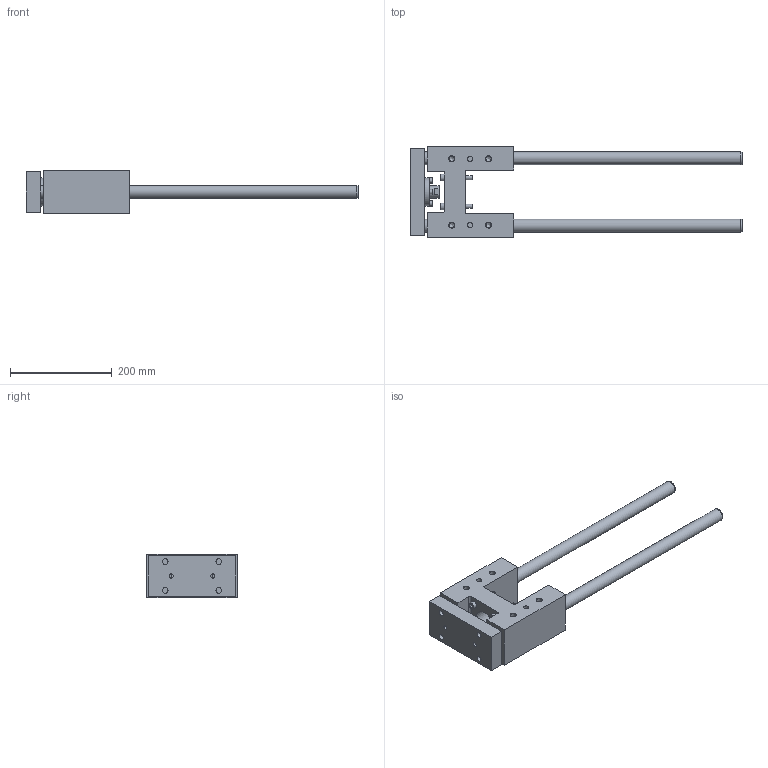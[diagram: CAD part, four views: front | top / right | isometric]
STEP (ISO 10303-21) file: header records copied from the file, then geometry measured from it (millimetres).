
FILE_DESCRIPTION( ( 'STEP AP214' ), '1' );
FILE_NAME( 'U:/Etudes/Top Solid/BIBLIO 3D AVM/TOP/PNEUMATIQUE/GUIDAGES/Type 32 (en H)/R_Renforcée/327R7_30.step', '2005-05-27T09:07:06', ( ' ' ), ( ' ' ), 'XStep 1.0', ' ', ' ' );
FILE_SCHEMA( ( 'automotive_design' ) );
Length unit declared in the file: metre
Products named in the file (2): 1; 2
Bounding box: 651 x 178 x 85 mm (x, y, z)
Volume: 2407299.7 mm3; surface area: 317597.6 mm2
Topology: 2 solids, 7 shells, 209 faces, 484 edges, 321 vertices
Faces by surface type: plane 118, cylinder 70, cone 21
Full cylindrical faces by diameter (mm): 6 x8, 6.5 x4, 8 x10, 8.376 x4, 9 x4, 10 x6, 10.106 x8, 11 x4, 13 x4, 14.376 x2, 18 x4, 24 x1, 25 x4, 26 x1, 34 x1, 37 x1, 45 x1, 55 x1
Entity records: 7089 total; most frequent: CARTESIAN_POINT 1103, DIRECTION 900, ORIENTED_EDGE 696, EDGE_LOOP 358, AXIS2_PLACEMENT_3D 349, EDGE_CURVE 348, VERTEX_POINT 280, FACE_OUTER_BOUND 277
